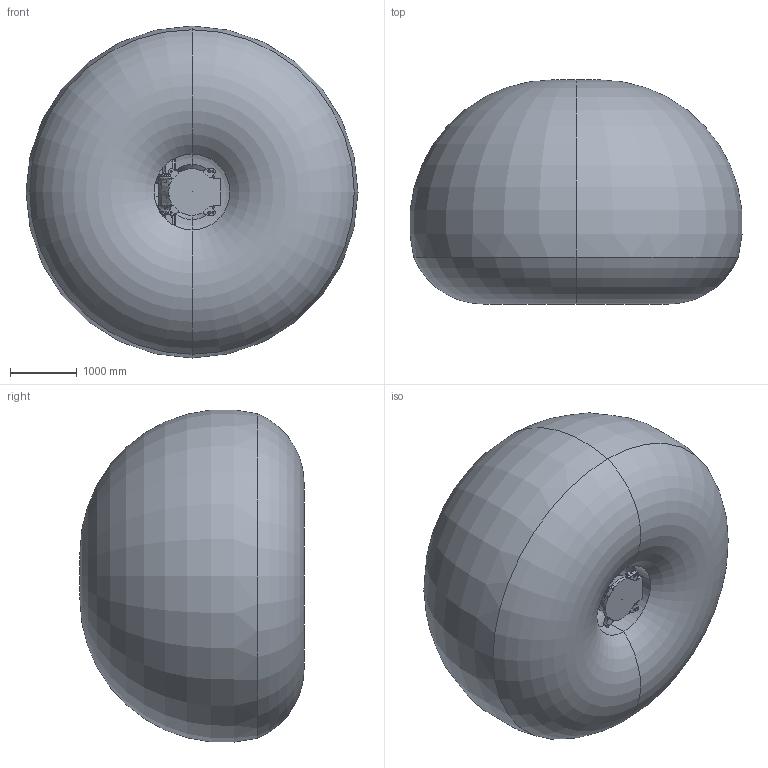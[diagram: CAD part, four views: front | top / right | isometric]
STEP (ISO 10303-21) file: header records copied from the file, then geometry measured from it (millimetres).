
FILE_DESCRIPTION (( 'STEP AP214' ), '1' );
FILE_NAME ('SMART-5 NJ4-170-2.5 (3D-STEP).STEP', '2010-11-29T10:46:30', ( '' ), ( '' ), 'SwSTEP 2.0', 'SolidWorks 2007', '' );
FILE_SCHEMA (( 'AUTOMOTIVE_DESIGN' ));
Length unit declared in the file: millimetre
Products named in the file (17): SMART-5 NJ4-170-2.5_p08; SMART-5 NJ4-170-2.5_p07; SMART-5 NJ4-170-2.5_p06; SMART-5 NJ4-170-2.5_p10; SMART-5 NJ4-170-2.5_p09; SMART-5 NJ4-170-2.5_CR82350080_SM; SMART-5 NJ4-170-2.5_CR82350070_SM; SMART-5 NJ4-170-2.5_CR82350060_SM; SMART-5 NJ4-170-2.5_CR82350031_SM; SMART-5 NJ4-170-2.5_CR82350041_SM; SMART-5 NJ4-170-2.5_p02; Operation Area SMART-5 NJ4-170-2.5; SMART-5 NJ4-170-2.5_p01; SMART-5 NJ4-170-2.5 (3D-STEP); SMART-5 NJ4-170-2.5_p05; SMART-5 NJ4-170-2.5_p04; SMART-5 NJ4-170-2.5_p03
Assembly tree (17 placements, depth 2):
  SMART-5 NJ4-170-2.5 (3D-STEP)
    SMART-5 NJ4-170-2.5_p02
    SMART-5 NJ4-170-2.5_CR82350070_SM  x2
    SMART-5 NJ4-170-2.5_CR82350080_SM
    SMART-5 NJ4-170-2.5_p08
    SMART-5 NJ4-170-2.5_p07
    SMART-5 NJ4-170-2.5_p01
    Operation Area SMART-5 NJ4-170-2.5
    SMART-5 NJ4-170-2.5_p03
    SMART-5 NJ4-170-2.5_CR82350031_SM
    SMART-5 NJ4-170-2.5_p10
    SMART-5 NJ4-170-2.5_p09
    SMART-5 NJ4-170-2.5_CR82350041_SM
    SMART-5 NJ4-170-2.5_CR82350060_SM
    SMART-5 NJ4-170-2.5_p04
    SMART-5 NJ4-170-2.5_p05
    SMART-5 NJ4-170-2.5_p06
Bounding box: 4988.69 x 3367.35 x 4988.69 mm (x, y, z)
Volume: 46334839965.3 mm3; surface area: 89521708.4 mm2
Topology: 17 solids, 21 shells, 3578 faces, 9614 edges, 6231 vertices
Faces by surface type: plane 1566, cylinder 1361, bspline 333, cone 242, torus 76
Entity records: 159170 total; most frequent: CARTESIAN_POINT 66420, ORIENTED_EDGE 18398, DIRECTION 16438, EDGE_CURVE 9199, VERTEX_POINT 6049, AXIS2_PLACEMENT_3D 5925, VECTOR 4588, LINE 4588
